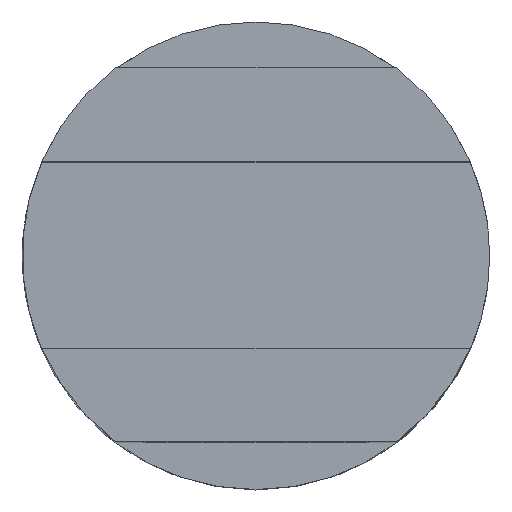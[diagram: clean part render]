
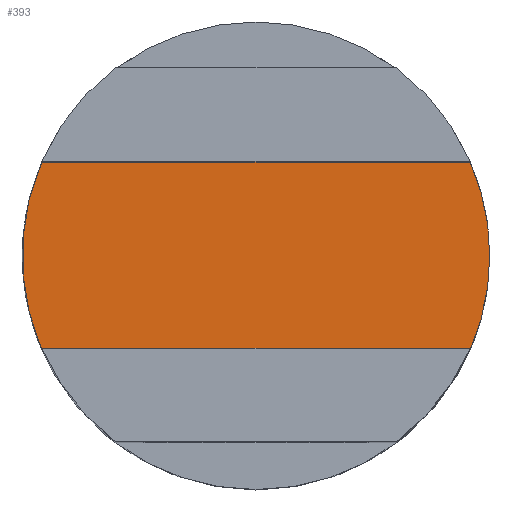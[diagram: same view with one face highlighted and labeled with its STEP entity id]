
A CAD part, top view. The second image highlights one B-rep face of the part: STEP entity #393.
In plain terms, the highlighted planar face has unit normal (0, 0, 1).
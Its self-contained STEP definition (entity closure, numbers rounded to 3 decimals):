
#28=LINE('',#562,#44);
#29=LINE('',#566,#45);
#44=VECTOR('',#478,1000.);
#45=VECTOR('',#483,1000.);
#57=PLANE('',#422);
#84=ORIENTED_EDGE('',*,*,#145,.T.);
#85=ORIENTED_EDGE('',*,*,#146,.F.);
#86=ORIENTED_EDGE('',*,*,#147,.T.);
#87=ORIENTED_EDGE('',*,*,#144,.T.);
#144=EDGE_CURVE('',#173,#174,#28,.T.);
#145=EDGE_CURVE('',#174,#175,#195,.T.);
#146=EDGE_CURVE('',#176,#175,#29,.T.);
#147=EDGE_CURVE('',#176,#173,#196,.T.);
#173=VERTEX_POINT('',#559);
#174=VERTEX_POINT('',#561);
#175=VERTEX_POINT('',#565);
#176=VERTEX_POINT('',#567);
#195=CIRCLE('',#423,12.5);
#196=CIRCLE('',#424,12.5);
#215=EDGE_LOOP('',(#84,#85,#86,#87));
#243=FACE_BOUND('',#215,.T.);
#393=ADVANCED_FACE('',(#243),#57,.T.);
#422=AXIS2_PLACEMENT_3D('',#563,#479,#480);
#423=AXIS2_PLACEMENT_3D('',#564,#481,#482);
#424=AXIS2_PLACEMENT_3D('',#568,#484,#485);
#478=DIRECTION('',(-1.,0.,0.));
#479=DIRECTION('',(0.,0.,1.));
#480=DIRECTION('',(1.,0.,0.));
#481=DIRECTION('',(0.,0.,1.));
#482=DIRECTION('',(1.,0.,0.));
#483=DIRECTION('',(-1.,0.,0.));
#484=DIRECTION('',(0.,0.,1.));
#485=DIRECTION('',(1.,0.,0.));
#559=CARTESIAN_POINT('',(11.456,5.,-27.));
#561=CARTESIAN_POINT('',(-11.456,5.,-27.));
#562=CARTESIAN_POINT('',(57.717,5.,-27.));
#563=CARTESIAN_POINT('',(57.717,-4.5,-27.));
#564=CARTESIAN_POINT('',(0.,0.,-27.));
#565=CARTESIAN_POINT('',(-11.456,-5.,-27.));
#566=CARTESIAN_POINT('',(57.717,-5.,-27.));
#567=CARTESIAN_POINT('',(11.456,-5.,-27.));
#568=CARTESIAN_POINT('',(0.,0.,-27.));
